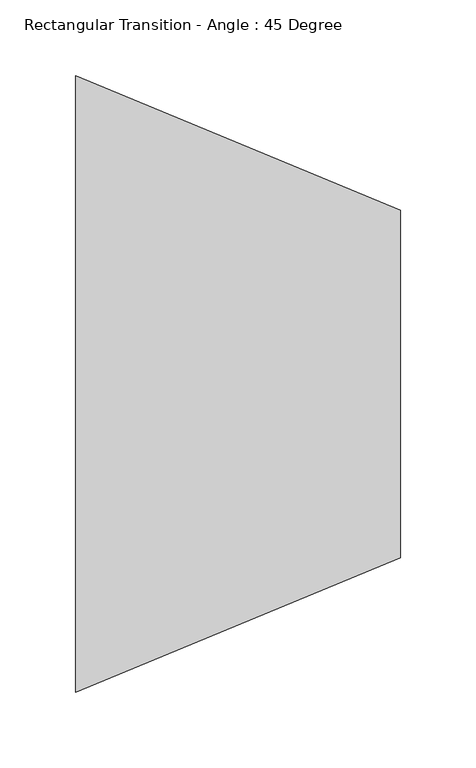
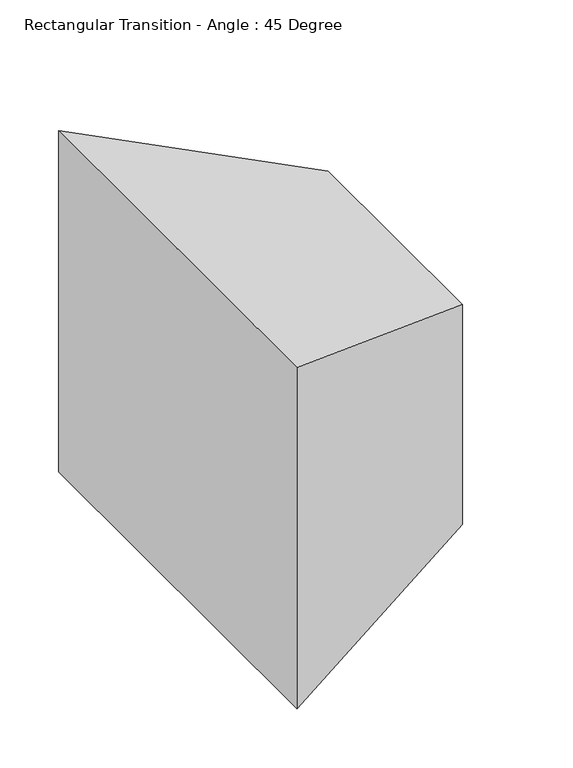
"""IFC4 building model written with IfcOpenShell, lengths in millimetres: duct fitting geometry, Rectangular Transition - Angle : 45 Degree."""

from ifc_helpers import new_model, si_unit, origin, place, context, project, spatial, faceted_brep, source, transform, mapped, element, save


def rectangular_transition_angle_45_degree_34230bd5(model_context):
    return source(origin(), model_context, "Body", "Brep", [
        faceted_brep([(214.140743, -114.5, 114.5), (214.140743, -114.5, -114.5), (214.140743, 114.5, -114.5), (214.140743, 114.5, 114.5), (0.0, -203.2, 177.8), (0.0, 203.2, 177.8), (0.0, 203.2, -177.8), (0.0, -203.2, -177.8)], [[[0, 1, 2, 3]], [[4, 5, 6, 7]], [[4, 7, 1, 0]], [[7, 6, 2, 1]], [[6, 5, 3, 2]], [[5, 4, 0, 3]]]),
    ])


if __name__ == "__main__":
    model = new_model("IFC4")
    model_context = context("Model", 3, world=origin())
    ifc_project = project(units=[si_unit("LENGTHUNIT", "METRE", prefix="MILLI")], contexts=[model_context])
    site = spatial("IfcSite", under=ifc_project)
    building = spatial("IfcBuilding", under=site)
    placement = place(None, origin())
    rectangular_transition_angle_45_degree_shape = rectangular_transition_angle_45_degree_34230bd5(model_context)
    element("IfcDuctFitting", 1, ObjectType="Rectangular Transition - Angle : 45 Degree", at=placement, inside=building, context=model_context, shape_type="MappedRepresentation", body=[
        mapped(rectangular_transition_angle_45_degree_shape, transform((0.0, 0.0, 0.0), x_axis=(1.0, 0.0, 0.0), y_axis=(0.0, 1.0, 0.0), z_axis=(0.0, 0.0, 1.0))),
    ])
    save(model, "model.ifc")
